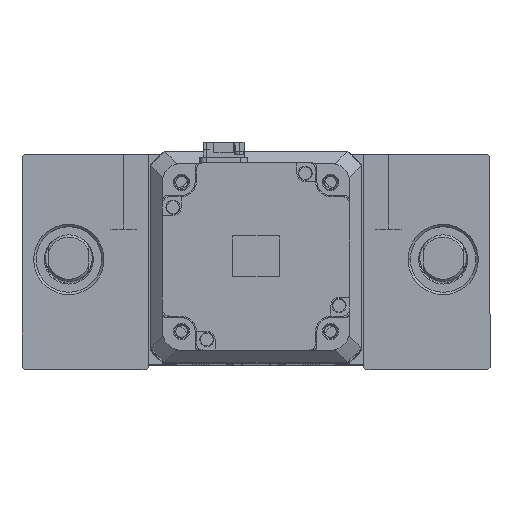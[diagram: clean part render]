
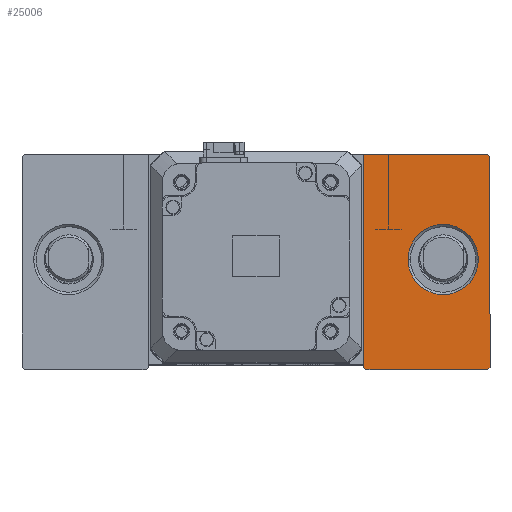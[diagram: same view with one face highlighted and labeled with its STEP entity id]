
A CAD part, top view. The second image highlights one B-rep face of the part: STEP entity #25006.
In plain terms, the highlighted planar face has unit normal (0, 0, 1).
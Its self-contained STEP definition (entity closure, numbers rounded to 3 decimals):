
#414 = CARTESIAN_POINT ( 'NONE',  ( 80., 0., 35. ) ) ;
#739 = LINE ( 'NONE', #34028, #23417 ) ;
#3107 = FACE_OUTER_BOUND ( 'NONE', #33958, .T. ) ;
#3485 = CIRCLE ( 'NONE', #14505, 15. ) ;
#4162 = DIRECTION ( 'NONE',  ( 0., -1., 0. ) ) ;
#4586 = ORIENTED_EDGE ( 'NONE', *, *, #13480, .T. ) ;
#4708 = DIRECTION ( 'NONE',  ( 1., 0., 0. ) ) ;
#6173 = EDGE_CURVE ( 'NONE', #41273, #46652, #17746, .T. ) ;
#6929 = EDGE_CURVE ( 'NONE', #33654, #43206, #7982, .T. ) ;
#7161 = ORIENTED_EDGE ( 'NONE', *, *, #43662, .T. ) ;
#7982 = LINE ( 'NONE', #49497, #29339 ) ;
#11179 = LINE ( 'NONE', #23733, #55230 ) ;
#11875 = CARTESIAN_POINT ( 'NONE',  ( 65., 0., 35. ) ) ;
#12731 = EDGE_CURVE ( 'NONE', #43206, #20726, #739, .T. ) ;
#12748 = DIRECTION ( 'NONE',  ( 0.707, 0.707, 0. ) ) ;
#13219 = CARTESIAN_POINT ( 'NONE',  ( 0., 0., 35. ) ) ;
#13411 = DIRECTION ( 'NONE',  ( 1., 0., 0. ) ) ;
#13480 = EDGE_CURVE ( 'NONE', #15624, #52040, #54025, .T. ) ;
#14505 = AXIS2_PLACEMENT_3D ( 'NONE', #20076, #49950, #24370 ) ;
#14709 = VECTOR ( 'NONE', #12748, 1000. ) ;
#15624 = VERTEX_POINT ( 'NONE', #49049 ) ;
#16864 = DIRECTION ( 'NONE',  ( -0.707, 0.707, 0. ) ) ;
#17311 = VECTOR ( 'NONE', #27234, 1000. ) ;
#17313 = VERTEX_POINT ( 'NONE', #11875 ) ;
#17321 = DIRECTION ( 'NONE',  ( 0., 0., 1. ) ) ;
#17502 = PLANE ( 'NONE',  #29441 ) ;
#17746 = LINE ( 'NONE', #43231, #29123 ) ;
#18634 = CARTESIAN_POINT ( 'NONE',  ( 100., 45., 35. ) ) ;
#18783 = LINE ( 'NONE', #38166, #27474 ) ;
#19985 = VERTEX_POINT ( 'NONE', #27548 ) ;
#20076 = CARTESIAN_POINT ( 'NONE',  ( 80., 0., 35. ) ) ;
#20726 = VERTEX_POINT ( 'NONE', #29124 ) ;
#21773 = DIRECTION ( 'NONE',  ( 1., 0., 0. ) ) ;
#23417 = VECTOR ( 'NONE', #4162, 1000. ) ;
#23733 = CARTESIAN_POINT ( 'NONE',  ( 0., 0., 35. ) ) ;
#24370 = DIRECTION ( 'NONE',  ( 1., 0., 0. ) ) ;
#25006 = ADVANCED_FACE ( 'NONE', ( #47182, #3107 ), #17502, .T. ) ;
#26101 = LINE ( 'NONE', #42561, #14709 ) ;
#26833 = CARTESIAN_POINT ( 'NONE',  ( 100., 44., 35. ) ) ;
#27234 = DIRECTION ( 'NONE',  ( 0., 1., 0. ) ) ;
#27251 = ORIENTED_EDGE ( 'NONE', *, *, #40005, .T. ) ;
#27474 = VECTOR ( 'NONE', #16864, 1000. ) ;
#27548 = CARTESIAN_POINT ( 'NONE',  ( 95., 0., 35. ) ) ;
#28856 = EDGE_CURVE ( 'NONE', #19985, #17313, #40139, .T. ) ;
#29123 = VECTOR ( 'NONE', #13411, 1000. ) ;
#29124 = CARTESIAN_POINT ( 'NONE',  ( 46., -46., 35. ) ) ;
#29339 = VECTOR ( 'NONE', #32523, 1000. ) ;
#29441 = AXIS2_PLACEMENT_3D ( 'NONE', #13219, #17321, #21773 ) ;
#30278 = DIRECTION ( 'NONE',  ( 0., 0., -1. ) ) ;
#32523 = DIRECTION ( 'NONE',  ( -1., 0., 0. ) ) ;
#33395 = ORIENTED_EDGE ( 'NONE', *, *, #37910, .T. ) ;
#33654 = VERTEX_POINT ( 'NONE', #44675 ) ;
#33958 = EDGE_LOOP ( 'NONE', ( #54632, #27251, #48005, #41859, #4586, #33395, #47691 ) ) ;
#34028 = CARTESIAN_POINT ( 'NONE',  ( 46., 45., 35. ) ) ;
#35218 = EDGE_LOOP ( 'NONE', ( #43242, #7161 ) ) ;
#37647 = CARTESIAN_POINT ( 'NONE',  ( 47., -47., 35. ) ) ;
#37910 = EDGE_CURVE ( 'NONE', #52040, #33654, #18783, .T. ) ;
#38166 = CARTESIAN_POINT ( 'NONE',  ( 72., 72., 35. ) ) ;
#40005 = EDGE_CURVE ( 'NONE', #20726, #41273, #11179, .T. ) ;
#40139 = CIRCLE ( 'NONE', #51729, 15. ) ;
#41273 = VERTEX_POINT ( 'NONE', #37647 ) ;
#41859 = ORIENTED_EDGE ( 'NONE', *, *, #44419, .T. ) ;
#42561 = CARTESIAN_POINT ( 'NONE',  ( 73., -73., 35. ) ) ;
#43206 = VERTEX_POINT ( 'NONE', #55186 ) ;
#43231 = CARTESIAN_POINT ( 'NONE',  ( 46., -47., 35. ) ) ;
#43242 = ORIENTED_EDGE ( 'NONE', *, *, #28856, .T. ) ;
#43662 = EDGE_CURVE ( 'NONE', #17313, #19985, #3485, .T. ) ;
#44419 = EDGE_CURVE ( 'NONE', #46652, #15624, #26101, .T. ) ;
#44675 = CARTESIAN_POINT ( 'NONE',  ( 99., 45., 35. ) ) ;
#45162 = DIRECTION ( 'NONE',  ( 0.707, -0.707, 0. ) ) ;
#46249 = CARTESIAN_POINT ( 'NONE',  ( 99., -47., 35. ) ) ;
#46652 = VERTEX_POINT ( 'NONE', #46249 ) ;
#47182 = FACE_BOUND ( 'NONE', #35218, .T. ) ;
#47691 = ORIENTED_EDGE ( 'NONE', *, *, #6929, .T. ) ;
#48005 = ORIENTED_EDGE ( 'NONE', *, *, #6173, .T. ) ;
#49049 = CARTESIAN_POINT ( 'NONE',  ( 100., -46., 35. ) ) ;
#49497 = CARTESIAN_POINT ( 'NONE',  ( 46., 45., 35. ) ) ;
#49950 = DIRECTION ( 'NONE',  ( 0., 0., -1. ) ) ;
#51729 = AXIS2_PLACEMENT_3D ( 'NONE', #414, #30278, #4708 ) ;
#52040 = VERTEX_POINT ( 'NONE', #26833 ) ;
#54025 = LINE ( 'NONE', #18634, #17311 ) ;
#54632 = ORIENTED_EDGE ( 'NONE', *, *, #12731, .T. ) ;
#55186 = CARTESIAN_POINT ( 'NONE',  ( 46., 45., 35. ) ) ;
#55230 = VECTOR ( 'NONE', #45162, 1000. ) ;
